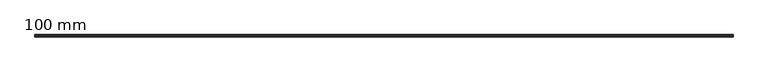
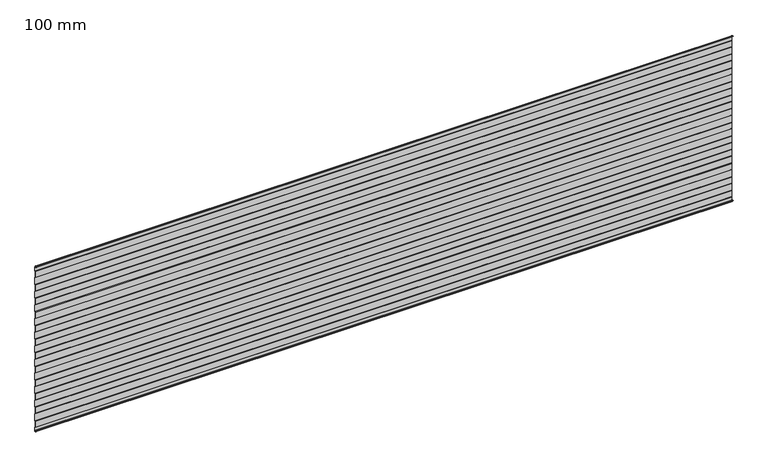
"""IFC4 building model written with IfcOpenShell, lengths in millimetres: plate geometry, HIANSA PANEL - H20.F02.002-PANELES DE FACHADA HORIZONTAL - PANEL PERFILADO - Panel de Muro Cortina : 100 mm."""

from ifc_helpers import new_model, si_unit, point, frame, frame_2d, origin, place, context, project, spatial, polyline, circle_curve, trimmed, segment, composite_curve, outline, extrude, source, transform, mapped, element, save


def plate_100_mm_1e41f837(model_context):
    return source(origin(), model_context, "Body", "SweptSolid", [
        extrude(outline(composite_curve([segment(polyline([(-0.9999995, 43.9677319), (5e-07, 40.9677319), (5e-07, 15.9677319)]), True, "CONTINUOUS"), segment(trimmed(circle_curve(frame_2d((-1.4999995, 15.9677319)), 1.5), [point((5e-07, 15.9677319))], [point((-1.4999995, 14.4677319))], False, "CARTESIAN"), True, "CONTINUOUS"), segment(polyline([(-1.4999995, 14.4677319), (-4.4999995, 14.4677319)]), True, "CONTINUOUS"), segment(trimmed(circle_curve(frame_2d((-4.4999995, 15.9677319)), 1.5), [point((-4.4999995, 14.4677319))], [point((-5.9999995, 15.9677319))], False, "CARTESIAN"), True, "CONTINUOUS"), segment(polyline([(-5.9999995, 15.9677319), (-5.9999995, 23.5810465)]), True, "CONTINUOUS"), segment(trimmed(circle_curve(frame_2d((-7.5399995, 23.5810465)), 1.54), [point((-5.9999995, 23.5810465))], [point((-7.5399995, 25.1210465))], True, "CARTESIAN"), True, "CONTINUOUS"), segment(polyline([(-7.5399995, 25.1210465), (-13.7002592, 25.1210465), (-12.9205789, 25.6210465), (-7.5400053, 25.6210465)]), True, "CONTINUOUS"), segment(trimmed(circle_curve(frame_2d((-7.5400053, 23.5810465)), 2.04), [point((-7.5400053, 25.6210465))], [point((-5.5000053, 23.5810465))], False, "CARTESIAN"), True, "CONTINUOUS"), segment(polyline([(-5.5000053, 23.5810465), (-5.5000053, 15.9677319)]), True, "CONTINUOUS"), segment(trimmed(circle_curve(frame_2d((-4.4999995, 15.9677319)), 1.0000057), [point((-5.5000053, 15.9677319))], [point((-4.4999976, 14.9677262))], True, "CARTESIAN"), True, "CONTINUOUS"), segment(polyline([(-4.4999976, 14.9677262), (-1.4999976, 14.9677319)]), True, "CONTINUOUS"), segment(trimmed(circle_curve(frame_2d((-1.4999995, 15.9677319)), 1.0), [point((-1.4999976, 14.9677319))], [point((-0.4999995, 15.9677319))], True, "CARTESIAN"), True, "CONTINUOUS"), segment(polyline([(-0.4999995, 15.9677319), (-0.4999995, 40.8865931), (-1.4999995, 43.8865931), (-1.4999995, 84.0488708), (-0.4999995, 87.0488708), (-0.4999995, 131.8865931), (-1.4999995, 134.8865931), (-1.4999995, 175.0488708), (-0.4999995, 178.0488708), (-0.4999995, 222.8865931), (-1.4999995, 225.8865931), (-1.4999995, 266.0488708), (-0.4999995, 269.0488708), (-0.4999995, 313.8865931), (-1.4999995, 316.8865931), (-1.4999995, 357.0488708), (-0.4999995, 360.0488708), (-0.4999995, 404.8865931), (-1.4999995, 407.8865931), (-1.4999995, 448.0488708), (-0.4999995, 451.0488708), (-0.4999995, 495.8865931), (-1.4999995, 498.8865931), (-1.4999995, 539.0488708), (-0.4999995, 542.0488708), (-0.4999995, 586.8865931), (-1.4999995, 589.8865931), (-1.4999995, 630.0488708), (-0.4999995, 633.0488708), (-0.4999995, 677.8865931), (-1.4999995, 680.8865931), (-1.4999995, 721.0488708), (-0.4999995, 724.0488708), (-0.4999995, 768.8865931), (-1.4999995, 771.8865931), (-1.4999995, 812.0488708), (-0.4999995, 815.0488708), (-0.4999995, 859.8865931), (-1.4999995, 862.8865931), (-1.4999995, 903.0488708), (-0.4999995, 906.0488708), (-0.4999995, 950.8865931), (-1.4999995, 953.8865931), (-1.4999995, 994.0488708), (-0.4999995, 997.0488708), (-0.4999995, 1041.8865931), (-1.4999995, 1044.8865931), (-1.4999995, 1085.0488708), (-0.4999995, 1088.0488708), (-0.4999995, 1112.9277319)]), True, "CONTINUOUS"), segment(trimmed(circle_curve(frame_2d((-1.4999995, 1112.9277319)), 1.0), [point((-0.4999995, 1112.9277319))], [point((-1.4999995, 1113.9277319))], True, "CARTESIAN"), True, "CONTINUOUS"), segment(polyline([(-1.4999995, 1113.9277319), (-4.7459995, 1113.9277319)]), True, "CONTINUOUS"), segment(trimmed(circle_curve(frame_2d((-4.7459995, 1115.9317319)), 2.004), [point((-4.7459995, 1113.9277319))], [point((-6.7499995, 1115.9317319))], False, "CARTESIAN"), True, "CONTINUOUS"), segment(polyline([(-6.7499995, 1115.9317319), (-6.7499995, 1122.0810465)]), True, "CONTINUOUS"), segment(trimmed(circle_curve(frame_2d((-7.7499995, 1122.0810465)), 1.0), [point((-6.7499995, 1122.0810465))], [point((-7.7499995, 1123.0810465))], True, "CARTESIAN"), True, "CONTINUOUS"), segment(polyline([(-7.7499995, 1123.0810465), (-12.9009472, 1123.0810465), (-13.7002592, 1123.5810465), (-7.7500053, 1123.5810465)]), True, "CONTINUOUS"), segment(trimmed(circle_curve(frame_2d((-7.7500053, 1122.0810465)), 1.5), [point((-7.7500053, 1123.5810465))], [point((-6.2500053, 1122.0810465))], False, "CARTESIAN"), True, "CONTINUOUS"), segment(polyline([(-6.2500053, 1122.0810465), (-6.2500053, 1115.931727)]), True, "CONTINUOUS"), segment(trimmed(circle_curve(frame_2d((-4.7460053, 1115.931727)), 1.504), [point((-6.2500053, 1115.931727))], [point((-4.746003, 1114.427727))], True, "CARTESIAN"), True, "CONTINUOUS"), segment(polyline([(-4.746003, 1114.427727), (-1.5000018, 1114.4277319)]), True, "CONTINUOUS"), segment(trimmed(circle_curve(frame_2d((-1.4999995, 1112.9277319)), 1.5), [point((-1.5000018, 1114.4277319))], [point((5e-07, 1112.9277319))], False, "CARTESIAN"), True, "CONTINUOUS"), segment(polyline([(5e-07, 1112.9277319), (5e-07, 1087.9677319), (-0.9999995, 1084.9677319), (-0.9999995, 1044.9677319), (5e-07, 1041.9677319), (5e-07, 996.9677319), (-0.9999995, 993.9677319), (-0.9999995, 953.9677319), (5e-07, 950.9677319), (5e-07, 905.9677319), (-0.9999995, 902.9677319), (-0.9999995, 862.9677319), (5e-07, 859.9677319), (5e-07, 814.9677319), (-0.9999995, 811.9677319), (-0.9999995, 771.9677319), (5e-07, 768.9677319), (5e-07, 723.9677319), (-0.9999995, 720.9677319), (-0.9999995, 680.9677319), (5e-07, 677.9677319), (5e-07, 632.9677319), (-0.9999995, 629.9677319), (-0.9999995, 589.9677319), (5e-07, 586.9677319), (5e-07, 541.9677319), (-0.9999995, 538.9677319), (-0.9999995, 498.9677319), (5e-07, 495.9677319), (5e-07, 450.9677319), (-0.9999995, 447.9677319), (-0.9999995, 407.9677319), (5e-07, 404.9677319), (5e-07, 359.9677319), (-0.9999995, 356.9677319), (-0.9999995, 316.9677319), (5e-07, 313.9677319), (5e-07, 268.9677319), (-0.9999995, 265.9677319), (-0.9999995, 225.9677319), (5e-07, 222.9677319), (5e-07, 177.9677319), (-0.9999995, 174.9677319), (-0.9999995, 134.9677319), (5e-07, 131.9677319), (5e-07, 86.9677319), (-0.9999995, 83.9677319), (-0.9999995, 43.9677319)]), True, "CONTINUOUS")], self_intersect=False)), frame((-2200.0, 0.0, 0.0), z_axis=(1.0, 0.0, 0.0), x_axis=(0.0, 1.0, 0.0)), (0.0, 0.0, 1.0), 4400.0),
    ])


if __name__ == "__main__":
    model = new_model("IFC4")
    model_context = context("Model", 3, world=origin())
    ifc_project = project(units=[si_unit("LENGTHUNIT", "METRE", prefix="MILLI")], contexts=[model_context])
    site = spatial("IfcSite", under=ifc_project)
    building = spatial("IfcBuilding", under=site)
    placement = place(None, origin())
    plate_100_mm_shape = plate_100_mm_1e41f837(model_context)
    element("IfcPlate", 1, ObjectType="HIANSA PANEL - H20.F02.002-PANELES DE FACHADA HORIZONTAL - PANEL PERFILADO - Panel de Muro Cortina : 100 mm", at=placement, inside=building, context=model_context, shape_type="MappedRepresentation", body=[
        mapped(plate_100_mm_shape, transform((0.0, 0.0, 0.0), x_axis=(1.0, 0.0, 0.0), y_axis=(0.0, 1.0, 0.0), z_axis=(0.0, 0.0, 1.0))),
    ])
    save(model, "model.ifc")
